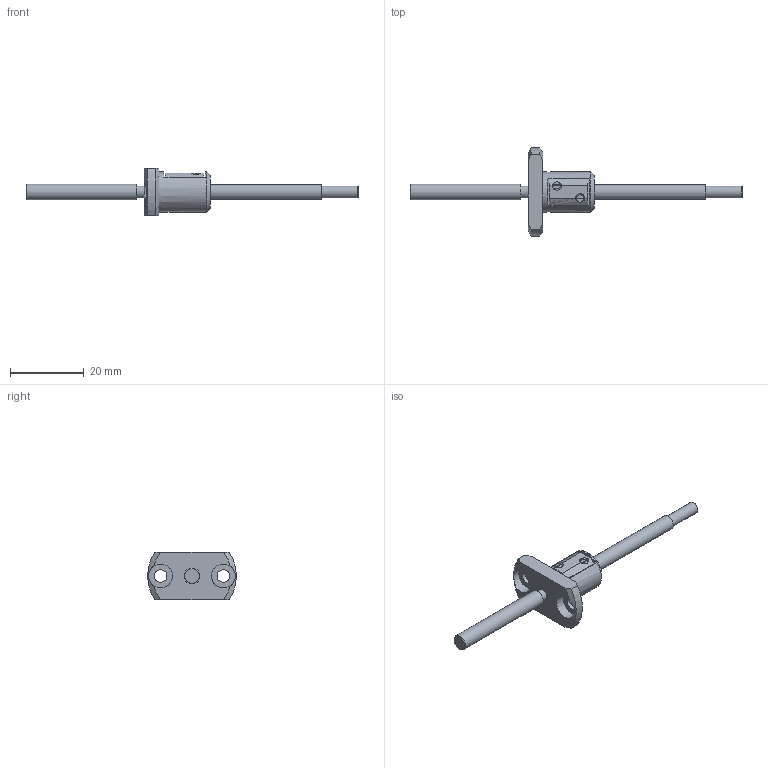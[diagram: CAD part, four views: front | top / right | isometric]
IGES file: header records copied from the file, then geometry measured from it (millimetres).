
Start section: Data from Parasolid IGES Translator 26.0.171, Copyright(c) 2006 Siemens PLM Software. All Rights Reserved.
Global section: file name: MBF0401-3.7GT+90LC3A(0).igs; native system: By Siemens PLM Incorporated; preprocessor: XPlus GENERIC/IGES 26.0.171; author: Noname; organization: Noname; date: 20240715.080306; units: millimetre
Bounding box: 90 x 23.92 x 13 mm (x, y, z)
Surface area: 2774.6 mm2 (no closed solid volume)
Topology: 0 solids, 0 shells, 63 faces, 316 edges, 298 vertices
Faces by surface type: extrusion 32, revolution 31
